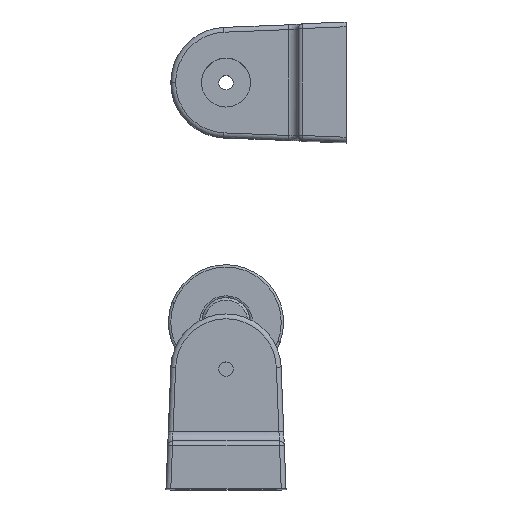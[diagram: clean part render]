
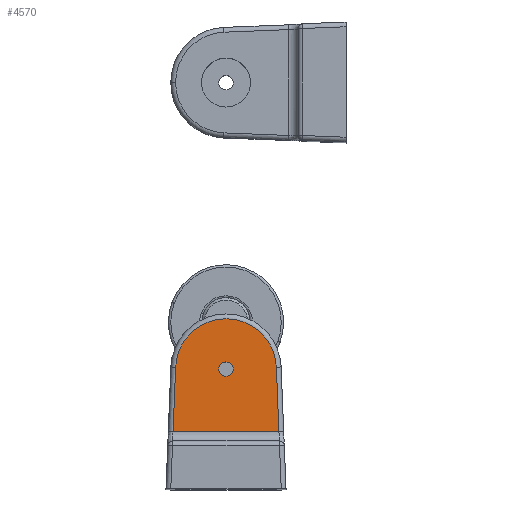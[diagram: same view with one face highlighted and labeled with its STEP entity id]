
A CAD part, top view. The second image highlights one B-rep face of the part: STEP entity #4570.
In plain terms, the highlighted planar face has unit normal (0, 0, 1).
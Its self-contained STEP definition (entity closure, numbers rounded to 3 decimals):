
#58 = LINE ( 'NONE', #4910, #3751 ) ;
#145 = EDGE_CURVE ( 'NONE', #2401, #2777, #1578, .T. ) ;
#216 = CARTESIAN_POINT ( 'NONE',  ( 0., 0., 39.5 ) ) ;
#290 = DIRECTION ( 'NONE',  ( 0., 0., 1. ) ) ;
#312 = DIRECTION ( 'NONE',  ( 1., 0., 0. ) ) ;
#464 = DIRECTION ( 'NONE',  ( 0., 0., 1. ) ) ;
#467 = EDGE_CURVE ( 'NONE', #2777, #2316, #58, .T. ) ;
#525 = CIRCLE ( 'NONE', #5425, 1.5 ) ;
#774 = CARTESIAN_POINT ( 'NONE',  ( 10.492, 0.416, 39.5 ) ) ;
#836 = EDGE_CURVE ( 'NONE', #5204, #4382, #525, .T. ) ;
#1045 = ORIENTED_EDGE ( 'NONE', *, *, #836, .F. ) ;
#1119 = VECTOR ( 'NONE', #3602, 1000. ) ;
#1345 = AXIS2_PLACEMENT_3D ( 'NONE', #4265, #1398, #4742 ) ;
#1368 = ORIENTED_EDGE ( 'NONE', *, *, #4954, .T. ) ;
#1398 = DIRECTION ( 'NONE',  ( 0., 0., 1. ) ) ;
#1490 = FACE_OUTER_BOUND ( 'NONE', #2397, .T. ) ;
#1578 = LINE ( 'NONE', #3139, #2826 ) ;
#1631 = CARTESIAN_POINT ( 'NONE',  ( -11.024, -13., 39.5 ) ) ;
#1706 = LINE ( 'NONE', #774, #1119 ) ;
#1783 = ORIENTED_EDGE ( 'NONE', *, *, #3872, .T. ) ;
#2040 = CIRCLE ( 'NONE', #1345, 10.5 ) ;
#2132 = CARTESIAN_POINT ( 'NONE',  ( 10.492, 0.416, 39.5 ) ) ;
#2213 = ORIENTED_EDGE ( 'NONE', *, *, #467, .T. ) ;
#2220 = EDGE_LOOP ( 'NONE', ( #1045, #2428 ) ) ;
#2316 = VERTEX_POINT ( 'NONE', #5760 ) ;
#2336 = CARTESIAN_POINT ( 'NONE',  ( -111.5, -15., 39.5 ) ) ;
#2397 = EDGE_LOOP ( 'NONE', ( #1368, #5300, #2213, #1783 ) ) ;
#2401 = VERTEX_POINT ( 'NONE', #5909 ) ;
#2428 = ORIENTED_EDGE ( 'NONE', *, *, #5737, .F. ) ;
#2654 = CARTESIAN_POINT ( 'NONE',  ( 0., 0., 39.5 ) ) ;
#2729 = FACE_BOUND ( 'NONE', #2220, .T. ) ;
#2777 = VERTEX_POINT ( 'NONE', #1631 ) ;
#2819 = AXIS2_PLACEMENT_3D ( 'NONE', #2336, #464, #3809 ) ;
#2826 = VECTOR ( 'NONE', #3130, 1000. ) ;
#3130 = DIRECTION ( 'NONE',  ( -0.04, -0.999, 0. ) ) ;
#3139 = CARTESIAN_POINT ( 'NONE',  ( -11.025, -13.04, 39.5 ) ) ;
#3147 = DIRECTION ( 'NONE',  ( 1., 0., 0. ) ) ;
#3475 = CIRCLE ( 'NONE', #6090, 1.5 ) ;
#3592 = CARTESIAN_POINT ( 'NONE',  ( 0., -1.5, 39.5 ) ) ;
#3602 = DIRECTION ( 'NONE',  ( -0.04, 0.999, 0. ) ) ;
#3751 = VECTOR ( 'NONE', #4881, 1000. ) ;
#3809 = DIRECTION ( 'NONE',  ( 1., 0., 0. ) ) ;
#3872 = EDGE_CURVE ( 'NONE', #2316, #4358, #1706, .T. ) ;
#4265 = CARTESIAN_POINT ( 'NONE',  ( 0., 0., 39.5 ) ) ;
#4358 = VERTEX_POINT ( 'NONE', #2132 ) ;
#4382 = VERTEX_POINT ( 'NONE', #3592 ) ;
#4570 = ADVANCED_FACE ( 'NONE', ( #2729, #1490 ), #5246, .T. ) ;
#4572 = CARTESIAN_POINT ( 'NONE',  ( 0., 1.5, 39.5 ) ) ;
#4742 = DIRECTION ( 'NONE',  ( 1., 0., 0. ) ) ;
#4881 = DIRECTION ( 'NONE',  ( 1., 0., 0. ) ) ;
#4910 = CARTESIAN_POINT ( 'NONE',  ( 12.104, -13., 39.5 ) ) ;
#4954 = EDGE_CURVE ( 'NONE', #4358, #2401, #2040, .T. ) ;
#5204 = VERTEX_POINT ( 'NONE', #4572 ) ;
#5246 = PLANE ( 'NONE',  #2819 ) ;
#5300 = ORIENTED_EDGE ( 'NONE', *, *, #145, .T. ) ;
#5425 = AXIS2_PLACEMENT_3D ( 'NONE', #216, #290, #312 ) ;
#5737 = EDGE_CURVE ( 'NONE', #4382, #5204, #3475, .T. ) ;
#5760 = CARTESIAN_POINT ( 'NONE',  ( 11.024, -13., 39.5 ) ) ;
#5909 = CARTESIAN_POINT ( 'NONE',  ( -10.492, 0.416, 39.5 ) ) ;
#6022 = DIRECTION ( 'NONE',  ( 0., 0., 1. ) ) ;
#6090 = AXIS2_PLACEMENT_3D ( 'NONE', #2654, #6022, #3147 ) ;
